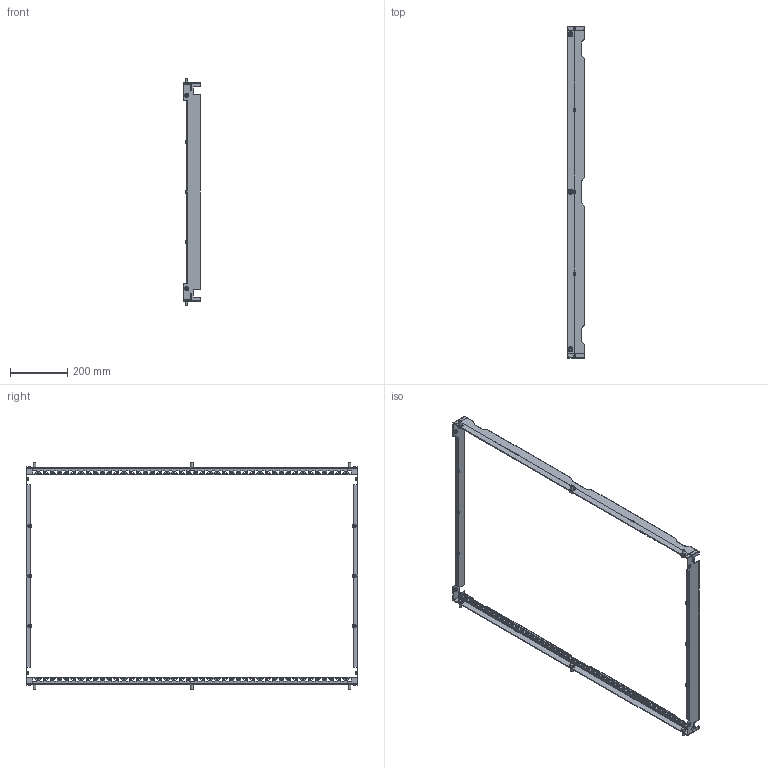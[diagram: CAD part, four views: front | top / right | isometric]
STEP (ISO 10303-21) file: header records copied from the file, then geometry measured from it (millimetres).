
FILE_DESCRIPTION (( 'STEP AP203' ), '1' );
FILE_NAME ('R6IP1280.step', '2025-07-11T08:05:27', ( '' ), ( '' ), 'SwSTEP 2.0', 'SolidWorks 2022', '' );
FILE_SCHEMA (( 'CONFIG_CONTROL_DESIGN' ));
Length unit declared in the file: millimetre
Products named in the file (9): RB.3320.00.00.0 СБ_-01; M6 DIN 6923 cl.8,0 Zinc_straight; M8x20 DIN 6921 cl.8,8 Zinc_straight; RB.3320.00.02.0_-01; RB.3321.00.00.0 СБ_-01; Pressing nut М6 S-M6-1; RB.3321.00.01.0_-01; R6IP1280; RB.3320.00.01.0_-01
Assembly tree (22 placements, depth 3):
  R6IP1280
    RB.3320.00.00.0 СБ_-01  x2
      RB.3320.00.01.0_-01
      RB.3320.00.02.0_-01
    RB.3321.00.00.0 СБ_-01  x2
      RB.3321.00.01.0_-01
      Pressing nut М6 S-M6-1
    M6 DIN 6923 cl.8,0 Zinc_straight  x5
    M8x20 DIN 6921 cl.8,8 Zinc_straight  x7
Bounding box: 57.76 x 1157.6 x 793.2 mm (x, y, z)
Volume: 429764.2 mm3; surface area: 680674.5 mm2
Topology: 24 solids, 24 shells, 4018 faces, 11593 edges, 7636 vertices
Faces by surface type: plane 2967, cylinder 835, cone 125, bspline 72, torus 19
Full cylindrical faces by diameter (mm): 5 x11, 6 x5, 8 x11, 8.73 x6, 8.85 x6, 11.1 x6
Entity records: 51771 total; most frequent: CARTESIAN_POINT 9540, ORIENTED_EDGE 8724, DIRECTION 8164, EDGE_CURVE 4362, VECTOR 3392, LINE 3392, VERTEX_POINT 2896, AXIS2_PLACEMENT_3D 2386
